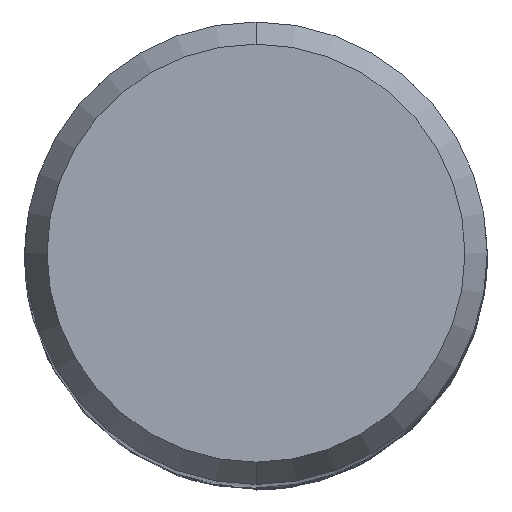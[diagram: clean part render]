
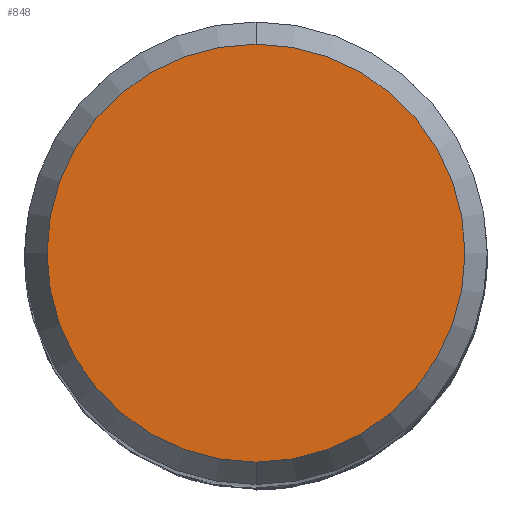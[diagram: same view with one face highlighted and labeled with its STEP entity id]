
A CAD part, top view. The second image highlights one B-rep face of the part: STEP entity #848.
In plain terms, the highlighted planar face has unit normal (0, 0, 1).
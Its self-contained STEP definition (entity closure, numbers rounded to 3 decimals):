
#848=ADVANCED_FACE('',(#2315),#2316,.T.);
#1460=EDGE_CURVE('',#2062,#1570,#2983,.T.);
#1462=EDGE_CURVE('',#1570,#2062,#2985,.T.);
#1570=VERTEX_POINT('',#3104);
#2062=VERTEX_POINT('',#3638);
#2315=FACE_OUTER_BOUND('',#4716,.T.);
#2316=PLANE('',#4717);
#2983=CIRCLE('',#12660,5.423);
#2985=CIRCLE('',#12663,5.423);
#3104=CARTESIAN_POINT('',(0.0,5.423,0.0));
#3638=CARTESIAN_POINT('',(0.,-5.423,0.0));
#4716=EDGE_LOOP('',(#20753,#20754));
#4717=AXIS2_PLACEMENT_3D('',#20755,#20756,#20757);
#12660=AXIS2_PLACEMENT_3D('',#21439,#21440,#21441);
#12663=AXIS2_PLACEMENT_3D('',#21442,#21443,#21444);
#20753=ORIENTED_EDGE('',*,*,#1462,.F.);
#20754=ORIENTED_EDGE('',*,*,#1460,.F.);
#20755=CARTESIAN_POINT('',(0.0,2.711,0.0));
#20756=DIRECTION('',(-0.0,0.0,1.0));
#20757=DIRECTION('',(0.0,-1.0,0.0));
#21439=CARTESIAN_POINT('',(0.0,0.0,0.0));
#21440=DIRECTION('',(0.0,0.0,-1.0));
#21441=DIRECTION('',(0.0,1.0,0.0));
#21442=CARTESIAN_POINT('',(0.0,0.0,0.0));
#21443=DIRECTION('',(0.0,0.0,-1.0));
#21444=DIRECTION('',(0.0,1.0,0.0));
